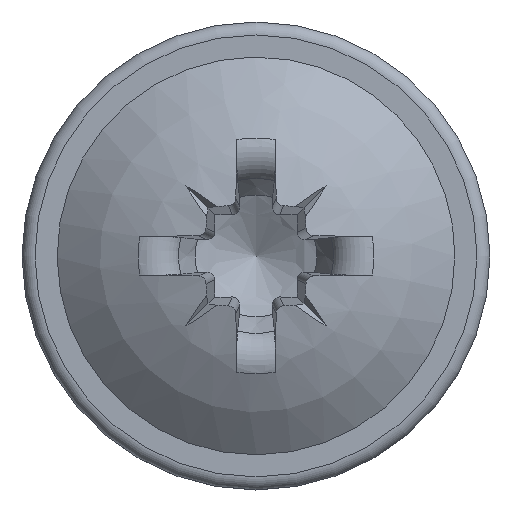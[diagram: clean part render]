
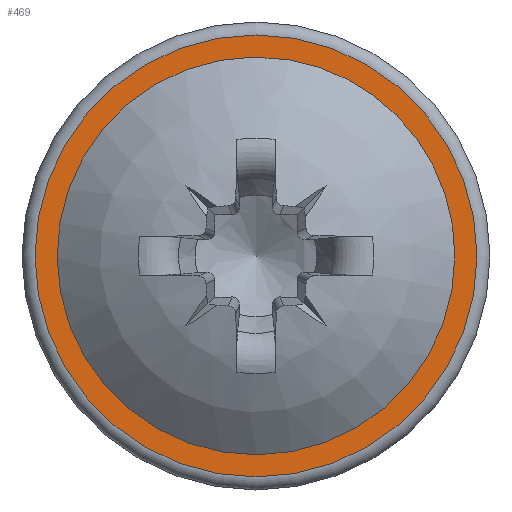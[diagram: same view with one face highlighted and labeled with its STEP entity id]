
A CAD part, top view. The second image highlights one B-rep face of the part: STEP entity #469.
In plain terms, the highlighted planar face has unit normal (0, 0, 1).
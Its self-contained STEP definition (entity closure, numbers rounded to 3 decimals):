
#139=PLANE('',#2524);
#443=FACE_BOUND('',#787,.T.);
#444=FACE_BOUND('',#788,.T.);
#469=ADVANCED_FACE('',(#443,#444),#139,.F.);
#787=EDGE_LOOP('',(#1094));
#788=EDGE_LOOP('',(#1095));
#942=CIRCLE('',#2482,3.825);
#977=CIRCLE('',#2523,4.25);
#1094=ORIENTED_EDGE('',*,*,#2031,.T.);
#1095=ORIENTED_EDGE('',*,*,#1980,.F.);
#1760=VERTEX_POINT('',#5222);
#1809=VERTEX_POINT('',#5532);
#1980=EDGE_CURVE('',#1760,#1760,#942,.T.);
#2031=EDGE_CURVE('',#1809,#1809,#977,.T.);
#2482=AXIS2_PLACEMENT_3D('',#5221,#2593,#2594);
#2523=AXIS2_PLACEMENT_3D('',#5531,#2676,#2677);
#2524=AXIS2_PLACEMENT_3D('',#5533,#2678,#2679);
#2593=DIRECTION('',(0.,0.,1.));
#2594=DIRECTION('',(1.,0.,0.));
#2676=DIRECTION('',(0.,0.,1.));
#2677=DIRECTION('',(-1.,0.,0.));
#2678=DIRECTION('',(0.,0.,-1.));
#2679=DIRECTION('',(-1.,0.,0.));
#5221=CARTESIAN_POINT('',(0.,0.,1.));
#5222=CARTESIAN_POINT('',(3.825,0.,1.));
#5531=CARTESIAN_POINT('',(0.,0.,1.));
#5532=CARTESIAN_POINT('',(-4.25,0.,1.));
#5533=CARTESIAN_POINT('',(0.,4.5,1.));
